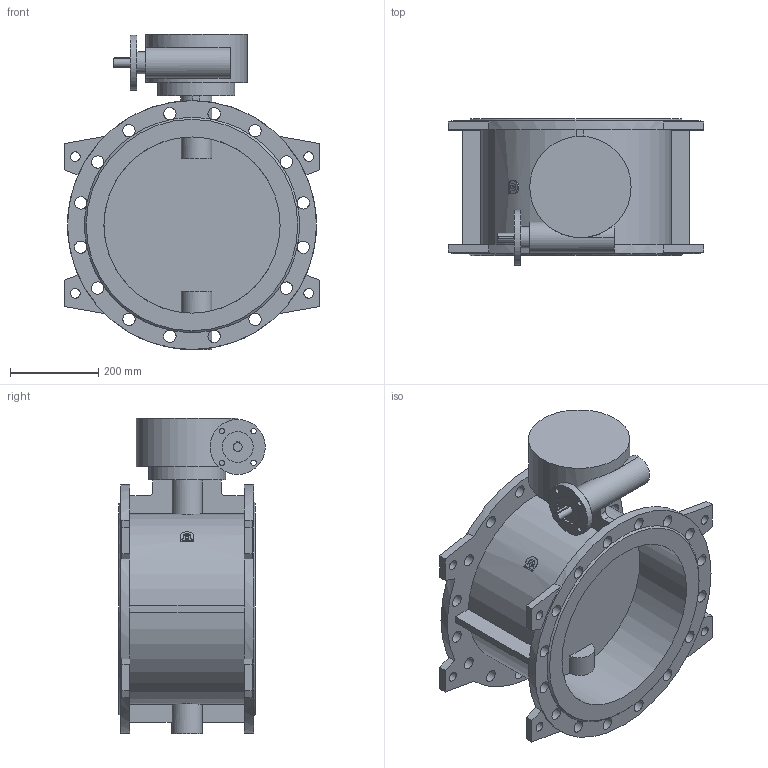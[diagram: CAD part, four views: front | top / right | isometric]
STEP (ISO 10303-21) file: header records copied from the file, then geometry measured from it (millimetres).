
FILE_DESCRIPTION(('STEP AP203'), '1');
FILE_NAME('Çàòâîð 023F.Z DN400 PN10_ð-ð_ôë', '', ('UNSPECIFIED'), ('UNSPECIFIED'), 'ASCON STEP Converter 1.6', 'ASCON Math Kernel', '');
FILE_SCHEMA(('CONFIG_CONTROL_DESIGN'));
Length unit declared in the file: millimetre
Bounding box: 580 x 332.5 x 716 mm (x, y, z)
Volume: 23683732.4 mm3; surface area: 1927798 mm2
Topology: 1 solids, 1 shells, 179 faces, 556 edges, 370 vertices
Faces by surface type: plane 95, cylinder 82, cone 2
Full cylindrical faces by diameter (mm): 12 x4, 14 x4, 18 x4, 20 x1, 22 x8, 28 x32, 50 x1, 70 x3, 125 x1, 175 x1, 230 x1, 400 x2, 565 x2
Entity records: 9843 total; most frequent: CARTESIAN_POINT 3412, DIRECTION 1037, ORIENTED_EDGE 972, EDGE_CURVE 486, AXIS2_PLACEMENT_3D 423, VERTEX_POINT 369, EDGE_LOOP 325, CIRCLE 244
